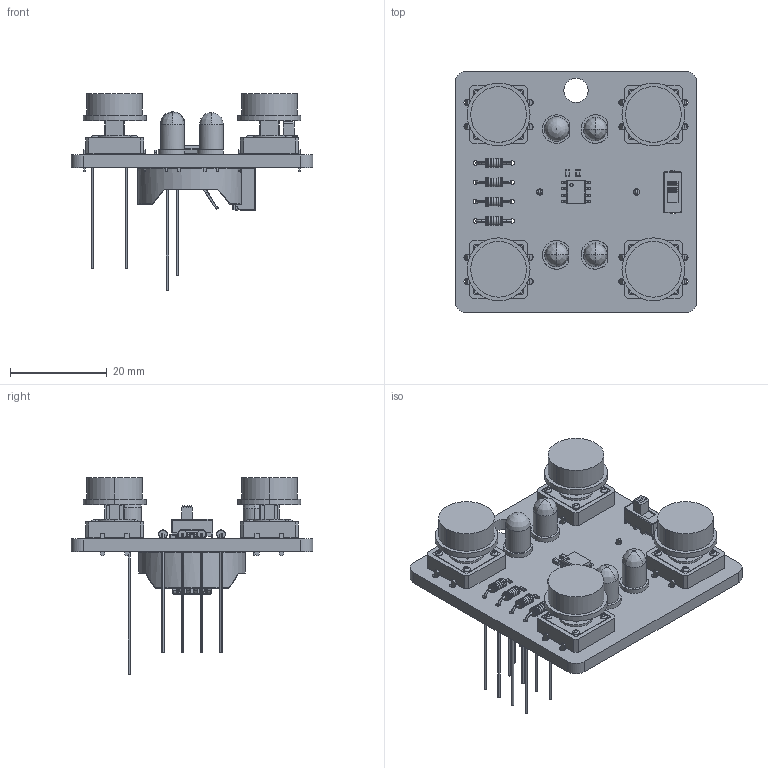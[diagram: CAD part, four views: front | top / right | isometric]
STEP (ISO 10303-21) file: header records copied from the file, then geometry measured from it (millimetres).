
FILE_DESCRIPTION(('KiCad electronic assembly'),'2;1');
FILE_NAME('Simon says game Solder Kit 3D.step','2026-03-26T08:29:24',( 'Pcbnew'),('Kicad'),'Open CASCADE STEP processor 7.8', 'KiCad to STEP converter','Unknown');
FILE_SCHEMA(('AUTOMOTIVE_DESIGN { 1 0 10303 214 1 1 1 1 }'));
Length unit declared in the file: millimetre
Products named in the file (28): Simon says game Solder Kit 3D 1; LED, 5mm, Red; LED, 5mm, red v4; THT_resistor; 3-1623927-1; PB 12mm Yellow; LED 5mm green TH; LED_5MM_BLUE; 0603C; 06035A910JAT2A; PB 12mm Green; PB 12mm Blue; SK-12D02-VG4 v1; PB 12mm Red; SOIC-8; SOIC8-150-50; LED 5mm yellow TH; Coin Cell Holder CR2025 & CR2032; _autosave-Simon says game Solder Kit_PCB
Assembly tree (31 placements, depth 3):
  Simon says game Solder Kit 3D 1
    LED, 5mm, Red
      LED, 5mm, red v4
    THT_resistor  x4
      3-1623927-1
    PB 12mm Yellow
      PB 12mm Yellow
    LED 5mm green TH
      LED 5mm green TH
    LED_5MM_BLUE
      LED_5MM_BLUE
    0603C  x2
      06035A910JAT2A
    PB 12mm Green
      PB 12mm Green
    PB 12mm Blue
      PB 12mm Blue
    SK-12D02-VG4 v1
      SK-12D02-VG4 v1
    PB 12mm Red
      PB 12mm Red
    SOIC-8
      SOIC8-150-50
    LED 5mm yellow TH
      LED 5mm yellow TH
    Coin Cell Holder CR2025 & CR2032
      Coin Cell Holder CR2025 & CR2032
    _autosave-Simon says game Solder Kit_PCB
Bounding box: 50 x 50 x 40.6 mm (x, y, z)
Volume: 12893.2 mm3; surface area: 13789.2 mm2
Topology: 70 solids, 70 shells, 2750 faces, 6608 edges, 4021 vertices
Faces by surface type: plane 1184, cylinder 854, bspline 313, torus 261, sphere 102, revolution 32, cone 4
Full cylindrical faces by diameter (mm): 0.8 x11, 0.9 x8, 1 x4, 1.25 x3, 1.3 x18, 3 x4, 5 x1, 5.06 x1
Entity records: 96855 total; most frequent: CARTESIAN_POINT 26252, ORIENTED_EDGE 12184, DIRECTION 11971, EDGE_CURVE 6092, AXIS2_PLACEMENT_3D 4281, VERTEX_POINT 3734, LINE 3377, VECTOR 3377
